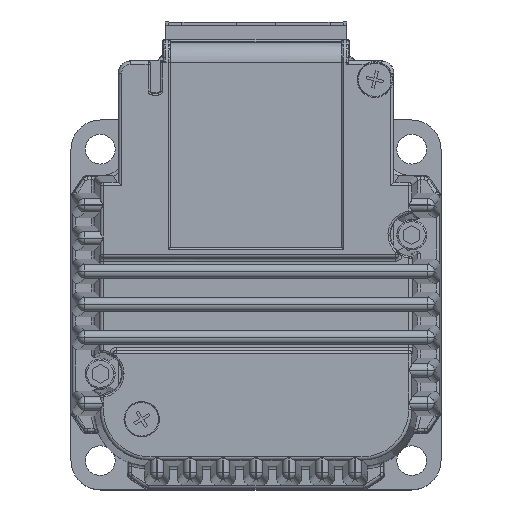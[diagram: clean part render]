
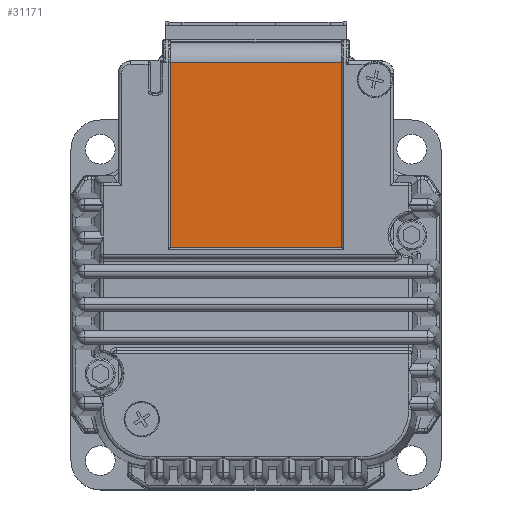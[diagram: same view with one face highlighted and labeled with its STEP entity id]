
A CAD part, top view. The second image highlights one B-rep face of the part: STEP entity #31171.
In plain terms, the highlighted planar face has unit normal (0, 0, 1).
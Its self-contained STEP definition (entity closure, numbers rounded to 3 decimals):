
#460 = AXIS2_PLACEMENT_3D ( 'NONE', #20954, #42848, #30098 ) ;
#2648 = DIRECTION ( 'NONE',  ( 1., 0., 0. ) ) ;
#3809 = LINE ( 'NONE', #4633, #33999 ) ;
#4633 = CARTESIAN_POINT ( 'NONE',  ( 92., 44., 56.4 ) ) ;
#6565 = EDGE_CURVE ( 'NONE', #44601, #17780, #3809, .T. ) ;
#8049 = LINE ( 'NONE', #16626, #15860 ) ;
#8101 = EDGE_CURVE ( 'NONE', #27650, #49957, #41658, .T. ) ;
#9200 = ORIENTED_EDGE ( 'NONE', *, *, #8101, .T. ) ;
#10414 = CARTESIAN_POINT ( 'NONE',  ( 66., 15.552, 56.4 ) ) ;
#12393 = FACE_OUTER_BOUND ( 'NONE', #13279, .T. ) ;
#13279 = EDGE_LOOP ( 'NONE', ( #31635, #38609, #9200, #38601 ) ) ;
#15860 = VECTOR ( 'NONE', #24942, 1000. ) ;
#16626 = CARTESIAN_POINT ( 'NONE',  ( 132.253, 43.552, 56.4 ) ) ;
#16946 = DIRECTION ( 'NONE',  ( 0., -1., 0. ) ) ;
#17780 = VERTEX_POINT ( 'NONE', #45890 ) ;
#18520 = CARTESIAN_POINT ( 'NONE',  ( 66., 15.552, 56.4 ) ) ;
#20419 = DIRECTION ( 'NONE',  ( 0., -1., 0. ) ) ;
#20573 = CARTESIAN_POINT ( 'NONE',  ( 66., 44., 56.4 ) ) ;
#20954 = CARTESIAN_POINT ( 'NONE',  ( 132.253, 44., 56.4 ) ) ;
#24942 = DIRECTION ( 'NONE',  ( -1., 0., 0. ) ) ;
#25926 = PLANE ( 'NONE',  #460 ) ;
#27650 = VERTEX_POINT ( 'NONE', #51182 ) ;
#28460 = VECTOR ( 'NONE', #16946, 1000. ) ;
#30098 = DIRECTION ( 'NONE',  ( -1., 0., 0. ) ) ;
#31171 = ADVANCED_FACE ( 'NONE', ( #12393 ), #25926, .F. ) ;
#31474 = LINE ( 'NONE', #10414, #48249 ) ;
#31635 = ORIENTED_EDGE ( 'NONE', *, *, #6565, .F. ) ;
#33999 = VECTOR ( 'NONE', #20419, 1000. ) ;
#38601 = ORIENTED_EDGE ( 'NONE', *, *, #40802, .T. ) ;
#38609 = ORIENTED_EDGE ( 'NONE', *, *, #52493, .T. ) ;
#40802 = EDGE_CURVE ( 'NONE', #49957, #17780, #31474, .T. ) ;
#41658 = LINE ( 'NONE', #20573, #28460 ) ;
#42848 = DIRECTION ( 'NONE',  ( 0., 0., -1. ) ) ;
#44601 = VERTEX_POINT ( 'NONE', #54417 ) ;
#45890 = CARTESIAN_POINT ( 'NONE',  ( 92., 15.552, 56.4 ) ) ;
#48249 = VECTOR ( 'NONE', #2648, 1000. ) ;
#49957 = VERTEX_POINT ( 'NONE', #18520 ) ;
#51182 = CARTESIAN_POINT ( 'NONE',  ( 66., 43.552, 56.4 ) ) ;
#52493 = EDGE_CURVE ( 'NONE', #44601, #27650, #8049, .T. ) ;
#54417 = CARTESIAN_POINT ( 'NONE',  ( 92., 43.552, 56.4 ) ) ;
